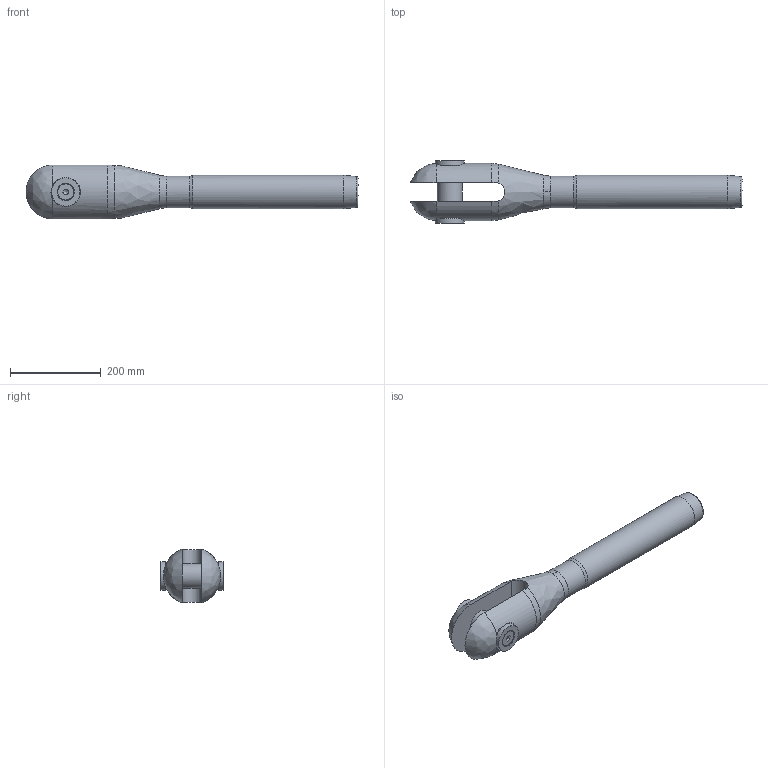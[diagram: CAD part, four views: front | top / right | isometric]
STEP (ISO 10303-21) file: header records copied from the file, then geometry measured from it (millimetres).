
FILE_DESCRIPTION(/* description */ (''),/* implementation_level */ '2;1');
FILE_NAME(/* name */ 'MAC 40_42CrMo4',/* time_stamp */ '2023-05-23T16:55:25+02:00',/* author */ (''),/* organization */ (''),/* preprocessor_version */ 'ST-DEVELOPER v16.5',/* originating_system */ 'Rhino 7.22',/* authorisation */ '');
FILE_SCHEMA (('CONFIG_CONTROL_DESIGN'));
Length unit declared in the file: millimetre
Products named in the file (1): Document
Bounding box: 730.39 x 137.87 x 118.79 mm (x, y, z)
Volume: 3917494 mm3; surface area: 297911.7 mm2
Topology: 6 solids, 6 shells, 75 faces, 209 edges, 144 vertices
Faces by surface type: plane 29, bspline 24, cylinder 22
Full cylindrical faces by diameter (mm): 17.294 x2, 20 x2, 21 x2, 35.4 x2, 55 x1, 56 x2, 63 x2, 70 x1, 73.5 x1
Entity records: 3166 total; most frequent: CARTESIAN_POINT 1823, ORIENTED_EDGE 410, EDGE_CURVE 205, VERTEX_POINT 144, EDGE_LOOP 85, B_SPLINE_CURVE_WITH_KNOTS 84, ADVANCED_FACE 75, FACE_OUTER_BOUND 75
